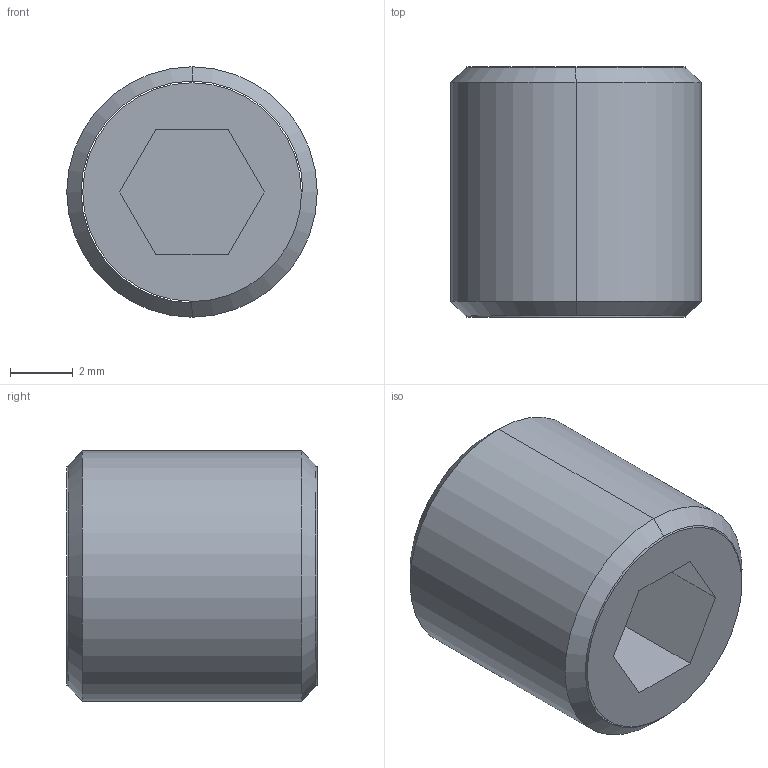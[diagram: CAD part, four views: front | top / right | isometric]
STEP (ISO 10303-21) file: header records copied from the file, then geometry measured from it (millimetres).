
FILE_DESCRIPTION (( 'STEP AP203' ), '1' );
FILE_NAME ('024 Bouchon Fiteté.STEP', '2021-10-27T18:25:51', ( '' ), ( '' ), 'SwSTEP 2.0', 'SolidWorks 2019', '' );
FILE_SCHEMA (( 'CONFIG_CONTROL_DESIGN' ));
Length unit declared in the file: millimetre
Products named in the file (1): 024 Bouchon Fiteté
Bounding box: 8 x 8 x 8 mm (x, y, z)
Volume: 320.2 mm3; surface area: 617.8 mm2
Topology: 1 solids, 1 shells, 19 faces, 48 edges, 30 vertices
Faces by surface type: plane 11, cone 4, cylinder 4
Entity records: 647 total; most frequent: DIRECTION 100, CARTESIAN_POINT 98, ORIENTED_EDGE 96, EDGE_CURVE 48, LINE 36, VECTOR 36, AXIS2_PLACEMENT_3D 32, VERTEX_POINT 30
